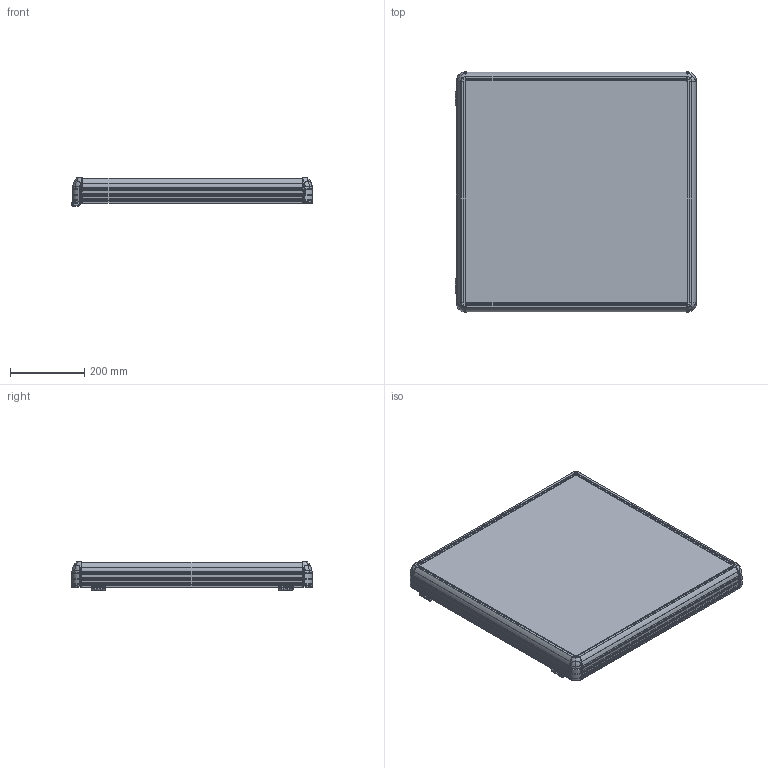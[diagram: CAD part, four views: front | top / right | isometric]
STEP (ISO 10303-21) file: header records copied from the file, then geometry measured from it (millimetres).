
FILE_DESCRIPTION (( 'STEP AP214' ), '1' );
FILE_NAME ('6000-0017.STEP', '2022-04-08T13:22:07', ( '' ), ( '' ), 'SwSTEP 2.0', 'SolidWorks 2021', '' );
FILE_SCHEMA (( 'AUTOMOTIVE_DESIGN' ));
Length unit declared in the file: millimetre
Products named in the file (6): ARKA_KAPAK_600X600; 600X600; 6000-0017; HPECO-060-001-495_595; HPECO-060-001-395_595; ECO6000-0000
Assembly tree (10 placements, depth 2):
  6000-0017
    600X600
    HPECO-060-001-495_595  x2
    HPECO-060-001-395_595  x2
    ECO6000-0000  x4
    ARKA_KAPAK_600X600
Bounding box: 649.03 x 647 x 76.47 mm (x, y, z)
Volume: 3171921.1 mm3; surface area: 2433334.1 mm2
Topology: 18 solids, 80 shells, 5381 faces, 14472 edges, 9022 vertices
Faces by surface type: plane 2157, cylinder 1464, bspline 932, cone 526, torus 256, sphere 46
Entity records: 144497 total; most frequent: CARTESIAN_POINT 33782, ORIENTED_EDGE 17686, DIRECTION 15813, EDGE_CURVE 8843, AXIS2_PLACEMENT_3D 5831, VERTEX_POINT 5515, VECTOR 4151, LINE 4151
